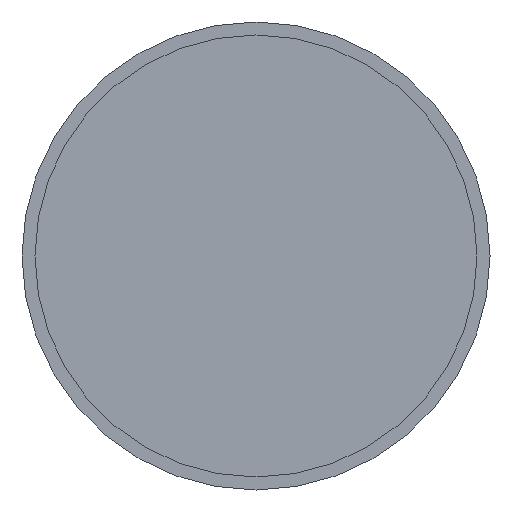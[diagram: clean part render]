
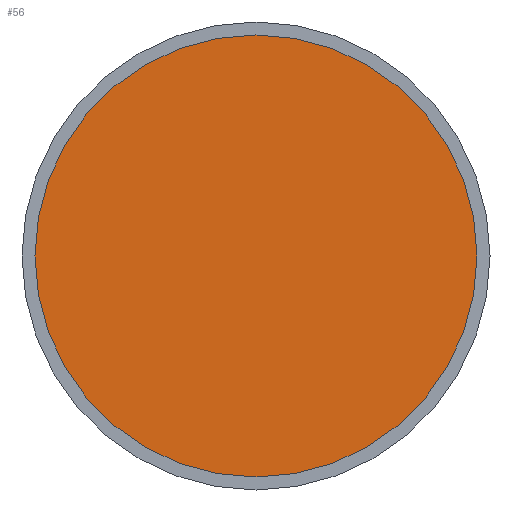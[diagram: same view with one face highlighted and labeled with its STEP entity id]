
A CAD part, front view. The second image highlights one B-rep face of the part: STEP entity #56.
In plain terms, the highlighted planar face has unit normal (0, -1, 0).
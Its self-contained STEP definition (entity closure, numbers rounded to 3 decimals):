
#56=ADVANCED_FACE('',(#93),#95,.T.);
#93=FACE_BOUND('',#94,.T.);
#94=EDGE_LOOP('',(#204));
#95=PLANE('',#96);
#96=AXIS2_PLACEMENT_3D('',#97,#98,#99);
#97=CARTESIAN_POINT('',(0.,-80.,0.));
#98=DIRECTION('',(0.,-1.,0.));
#99=DIRECTION('',(0.,0.,-1.));
#204=ORIENTED_EDGE('',*,*,#229,.T.);
#229=EDGE_CURVE('',#244,#244,#245,.T.);
#244=VERTEX_POINT('',#274);
#245=CIRCLE('',#275,25.5);
#274=CARTESIAN_POINT('',(0.,-80.,25.5));
#275=AXIS2_PLACEMENT_3D('',#276,#277,#278);
#276=CARTESIAN_POINT('',(0.,-80.,0.));
#277=DIRECTION('',(0.,-1.,0.));
#278=DIRECTION('',(0.,0.,1.));
